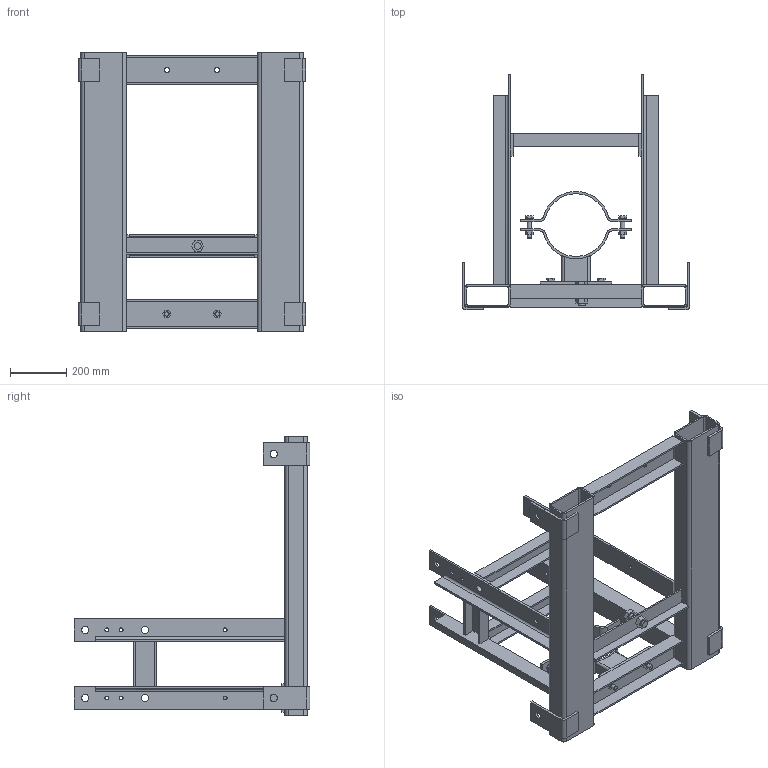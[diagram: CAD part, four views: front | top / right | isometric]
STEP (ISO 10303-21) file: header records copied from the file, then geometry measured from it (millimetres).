
FILE_DESCRIPTION(/* description */ ('VIC VALVE DIVERTER OPTIONAL SUPPORT FRAME'),/* implementation_level */ '2;1');
FILE_NAME(/* name */ 'C:\Files for Export\Optional Support frame\STEP\Victaulic_IPS_Valve Diverter_Optional Support Frame\Victaulic_IPS_Valve Diverter_Optional Support Frame_4 (100).stp',/* time_stamp */ '2024-11-26T12:31:21+01:00',/* author */ ('kkamble'),/* organization */ ('Victaulic'),/* preprocessor_version */ 'ST-DEVELOPER v18.1',/* originating_system */ 'Autodesk Inventor 2020',/* authorisation */ '');
FILE_SCHEMA (('AUTOMOTIVE_DESIGN { 1 0 10303 214 3 1 1 }'));
Length unit declared in the file: inch
Products named in the file (1): Frame-04.0
Bounding box: 804.93 x 834.9 x 991.11 mm (x, y, z)
Volume: 12923369.3 mm3; surface area: 3685085 mm2
Topology: 1 solids, 3 shells, 377 faces, 1092 edges, 714 vertices
Faces by surface type: plane 289, cylinder 86, cone 2
Full cylindrical faces by diameter (mm): 13.97 x12, 16.002 x8, 18.034 x4, 24.13 x2, 25.4 x12, 29.997 x4
Entity records: 12944 total; most frequent: CARTESIAN_POINT 2220, ORIENTED_EDGE 2184, DIRECTION 2066, EDGE_CURVE 1092, LINE 866, VECTOR 866, VERTEX_POINT 714, AXIS2_PLACEMENT_3D 600
